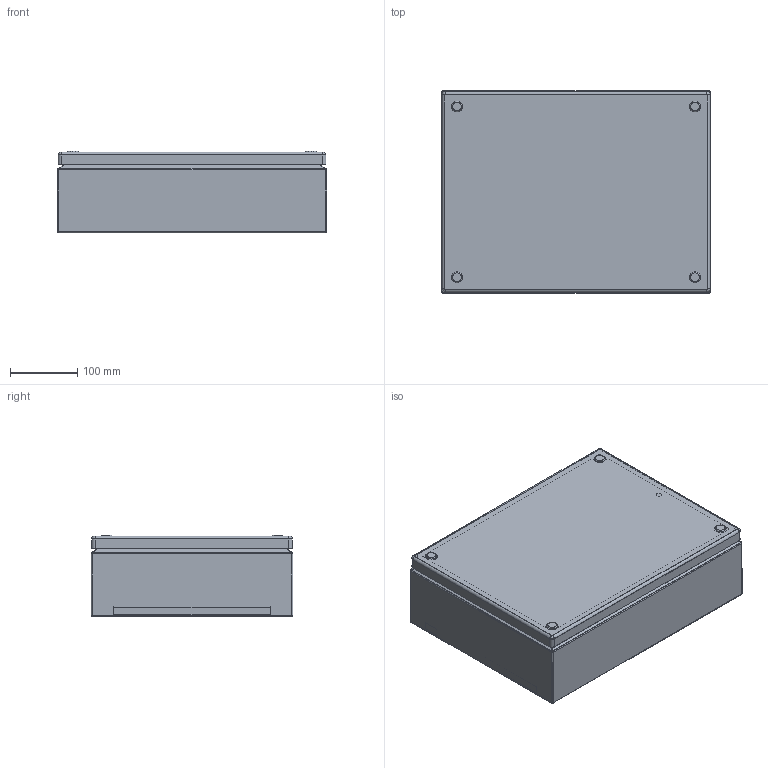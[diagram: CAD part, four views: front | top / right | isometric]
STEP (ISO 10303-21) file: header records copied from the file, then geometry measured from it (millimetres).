
FILE_DESCRIPTION (( 'STEP AP203' ), '1' );
FILE_NAME ('EG040312.A.STEP', '2023-09-01T14:38:11', ( '' ), ( '' ), 'SwSTEP 2.0', 'SolidWorks 2022', '' );
FILE_SCHEMA (( 'CONFIG_CONTROL_DESIGN' ));
Length unit declared in the file: millimetre
Products named in the file (3): AR_EGRAN.A_pannello_0400x0300; EG040312.A; AR_EGRAN.A_involucro_0400x0300x120
Assembly tree (2 placements, depth 2):
  EG040312.A
    AR_EGRAN.A_involucro_0400x0300x120
    AR_EGRAN.A_pannello_0400x0300
Bounding box: 400 x 300 x 121.5 mm (x, y, z)
Volume: 585395.2 mm3; surface area: 892994.8 mm2
Topology: 2 solids, 2 shells, 263 faces, 640 edges, 375 vertices
Faces by surface type: cylinder 133, plane 78, torus 28, sphere 16, bspline 8
Full cylindrical faces by diameter (mm): 4.2 x30, 5.2 x4, 5.5 x1, 6 x1, 8 x1, 10.2 x4, 16 x4
Entity records: 7857 total; most frequent: CARTESIAN_POINT 1661, DIRECTION 1304, ORIENTED_EDGE 1086, EDGE_CURVE 543, AXIS2_PLACEMENT_3D 534, EDGE_LOOP 408, VERTEX_POINT 351, FACE_OUTER_BOUND 320
